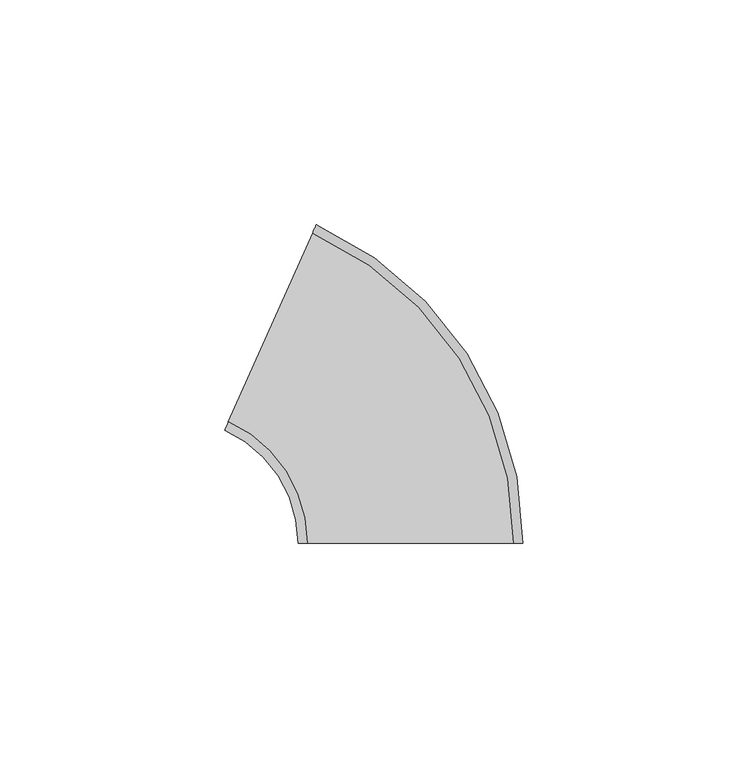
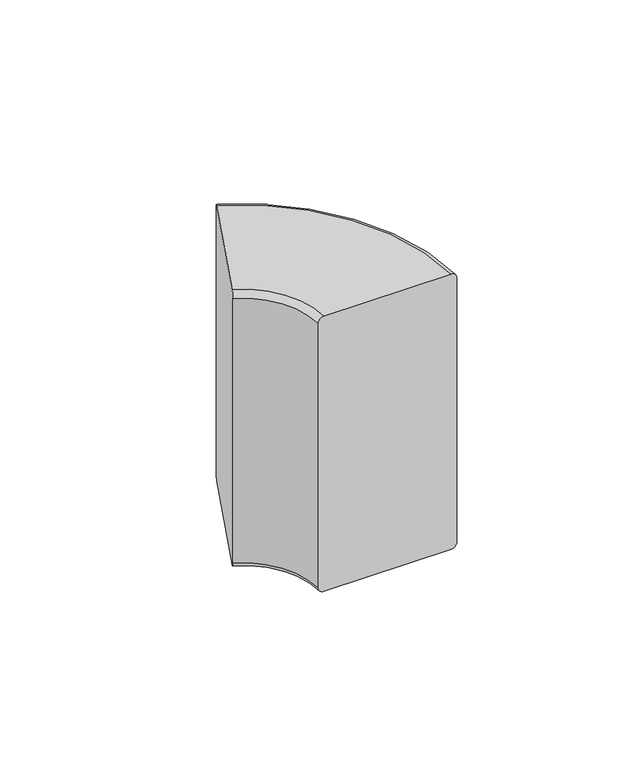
"""IFC4 building model written with IfcOpenShell, lengths in millimetres: duct fitting geometry, Угол внешний переменный от 60° до 120° - для кабель-каналов - белый : Угол внешний переменный от 60° до 120° - для кабель-каналов DLP 50х105 - белый."""

from ifc_helpers import new_model, si_unit, point, frame, origin, place, context, project, spatial, polyline, circle_curve, ellipse_curve, trimmed, source, transform, mapped, element, save
from ifc_brep_helpers import plane_surface, cylinder_surface, revolved_surface, advanced_brep


def duct_fitting_f8fb050e(model_context):
    return source(origin(), model_context, "Body", "AdvancedBrep", [
        advanced_brep(
        [(-23.0, 0.0, 52.5), (-25.0, 0.0, 50.5), (-25.0, 0.0, -50.5), (-23.0, 0.0, -52.5), (23.0, 0.0, -52.5), (25.0, 0.0, -50.5), (25.0, 0.0, 50.5), (23.0, 0.0, 52.5), (-40.501269, 26.949591, 52.5), (-21.7913834, 68.9726821, 52.5), (-20.9779102, 70.799773, 50.5), (-20.9779102, 70.799773, -50.5), (-21.7913834, 68.9726821, -52.5), (-40.501269, 26.949591, -52.5), (-41.3147423, 25.1225001, -50.5), (-41.3147423, 25.1225001, 50.5)],
        [
            (0, 1, circle_curve(frame((-23.0, 0.0, 50.5), z_axis=(0.0, -1.0, 0.0), x_axis=(-1.0, 0.0, 0.0)), 2.0)),
            (1, 2),
            (2, 3, circle_curve(frame((-23.0, 0.0, -50.5), z_axis=(0.0, -1.0, 0.0), x_axis=(-1.0, 0.0, 0.0)), 2.0)),
            (3, 4),
            (4, 5, circle_curve(frame((23.0, 0.0, -50.5), z_axis=(0.0, -1.0, 0.0), x_axis=(-1.0, 0.0, 0.0)), 2.0)),
            (5, 6),
            (6, 7, circle_curve(frame((23.0, 0.0, 50.5), z_axis=(0.0, -1.0, 0.0), x_axis=(-1.0, 0.0, 0.0)), 2.0)),
            (7, 0),
            (8, 9),
            (9, 10, circle_curve(frame((-21.7913834, 68.9726821, 50.5), z_axis=(-0.913545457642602, 0.40673664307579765, 0.0), x_axis=(-0.40673664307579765, -0.913545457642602, 0.0)), 2.0)),
            (10, 11),
            (11, 12, circle_curve(frame((-21.7913834, 68.9726821, -50.5), z_axis=(-0.913545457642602, 0.40673664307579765, 0.0), x_axis=(-0.40673664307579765, -0.913545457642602, 0.0)), 2.0)),
            (12, 13),
            (13, 14, circle_curve(frame((-40.501269, 26.949591, -50.5), z_axis=(-0.913545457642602, 0.40673664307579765, 0.0), x_axis=(-0.40673664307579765, -0.913545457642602, 0.0)), 2.0)),
            (14, 15),
            (15, 8, circle_curve(frame((-40.501269, 26.949591, 50.5), z_axis=(-0.913545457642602, 0.40673664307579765, 0.0), x_axis=(-0.40673664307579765, -0.913545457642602, 0.0)), 2.0)),
            (15, 1, circle_curve(frame((-52.5, 0.0, 50.5), z_axis=(0.0, 0.0, -1.0), x_axis=(1.0, 0.0, 0.0)), 27.5)),
            (0, 8, circle_curve(frame((-52.5, 0.0, 52.5), z_axis=(0.0, 0.0, 1.0), x_axis=(1.0, 0.0, 0.0)), 29.5)),
            (14, 2, circle_curve(frame((-52.5, 0.0, -50.5), z_axis=(0.0, 0.0, -1.0), x_axis=(1.0, 0.0, 0.0)), 27.5)),
            (13, 3, circle_curve(frame((-52.5, 0.0, -52.5), z_axis=(0.0, 0.0, -1.0), x_axis=(1.0, 0.0, 0.0)), 29.5)),
            (12, 4, circle_curve(frame((-52.5, 0.0, -52.5), z_axis=(0.0, 0.0, -1.0), x_axis=(1.0, 0.0, 0.0)), 75.5)),
            (11, 5, circle_curve(frame((-52.5, 0.0, -50.5), z_axis=(0.0, 0.0, -1.0), x_axis=(1.0, 0.0, 0.0)), 77.5)),
            (10, 6, circle_curve(frame((-52.5, 0.0, 50.5), z_axis=(0.0, 0.0, -1.0), x_axis=(1.0, 0.0, 0.0)), 77.5)),
            (9, 7, circle_curve(frame((-52.5, 0.0, 52.5), z_axis=(0.0, 0.0, -1.0), x_axis=(1.0, 0.0, 0.0)), 75.5)),
        ],
        [
            plane_surface(frame((0.0, 0.0, 0.0), z_axis=(0.0, -1.0, 0.0), x_axis=(0.0, 0.0, 1.0))),
            plane_surface(frame((-31.1463262, 47.9611365, 0.0), z_axis=(-0.913545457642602, 0.4067366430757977, 0.0), x_axis=(0.0, 0.0, 1.0))),
            revolved_surface(trimmed(ellipse_curve(frame((-23.0, 0.0, 50.5), z_axis=(0.0, -1.0, 0.0), x_axis=(-1.0, 0.0, 0.0)), 2.0, 2.0), [point((-23.0, 0.0, 52.5))], [point((-25.0, 0.0, 50.5))], True, "CARTESIAN"), (-52.5, 0.0, 0.0), (0.0, 0.0, 1.0)),
            revolved_surface(polyline([(-25.0, 0.0, 50.5), (-25.0, 0.0, -50.5)]), (-52.5, 0.0, 0.0), (0.0, 0.0, 1.0)),
            revolved_surface(trimmed(ellipse_curve(frame((-23.0, 0.0, -50.5), z_axis=(0.0, -1.0, 0.0), x_axis=(-1.0, 0.0, 0.0)), 2.0, 2.0), [point((-25.0, 0.0, -50.5))], [point((-23.0, 0.0, -52.5))], True, "CARTESIAN"), (-52.5, 0.0, 0.0), (0.0, 0.0, 1.0)),
            plane_surface(frame((-52.5, 0.0, -52.5), z_axis=(0.0, 0.0, -1.0), x_axis=(1.0, 0.0, 0.0))),
            revolved_surface(trimmed(ellipse_curve(frame((23.0, 0.0, -50.5), z_axis=(0.0, -1.0, 0.0), x_axis=(-1.0, 0.0, 0.0)), 2.0, 2.0), [point((23.0, 0.0, -52.5))], [point((25.0, 0.0, -50.5))], True, "CARTESIAN"), (-52.5, 0.0, 0.0), (0.0, 0.0, 1.0)),
            cylinder_surface(frame((-52.5, 0.0, 0.0), z_axis=(0.0, 0.0, 1.0), x_axis=(1.0, 0.0, 0.0)), 77.5),
            revolved_surface(trimmed(ellipse_curve(frame((23.0, 0.0, 50.5), z_axis=(0.0, -1.0, 0.0), x_axis=(-1.0, 0.0, 0.0)), 2.0, 2.0), [point((25.0, 0.0, 50.5))], [point((23.0, 0.0, 52.5))], True, "CARTESIAN"), (-52.5, 0.0, 0.0), (0.0, 0.0, 1.0)),
            plane_surface(frame((-52.5, 0.0, 52.5), z_axis=(0.0, 0.0, 1.0), x_axis=(1.0, 0.0, 0.0))),
        ],
        [
            (0, [[1, 2, 3, 4, 5, 6, 7, 8]]),
            (1, [[9, 10, 11, 12, 13, 14, 15, 16]]),
            (2, [[17, -1, 18, -16]]),
            (3, [[19, -2, -17, -15]]),
            (4, [[20, -3, -19, -14]]),
            (5, [[21, -4, -20, -13]]),
            (6, [[22, -5, -21, -12]]),
            (7, [[23, -6, -22, -11]]),
            (8, [[24, -7, -23, -10]]),
            (9, [[-18, -8, -24, -9]]),
        ],
    ),
    ])


if __name__ == "__main__":
    model = new_model("IFC4")
    model_context = context("Model", 3, world=origin())
    ifc_project = project(units=[si_unit("LENGTHUNIT", "METRE", prefix="MILLI")], contexts=[model_context])
    site = spatial("IfcSite", under=ifc_project)
    building = spatial("IfcBuilding", under=site)
    placement = place(None, origin())
    duct_fitting_shape = duct_fitting_f8fb050e(model_context)
    element("IfcDuctFitting", 1, ObjectType="Угол внешний переменный от 60° до 120° - для кабель-каналов - белый : Угол внешний переменный от 60° до 120° - для кабель-каналов DLP 50х105 - белый", at=placement, inside=building, context=model_context, shape_type="MappedRepresentation", body=[
        mapped(duct_fitting_shape, transform((0.0, 0.0, 0.0), x_axis=(1.0, 0.0, 0.0), y_axis=(0.0, 1.0, 0.0), z_axis=(0.0, 0.0, 1.0))),
    ])
    save(model, "model.ifc")
